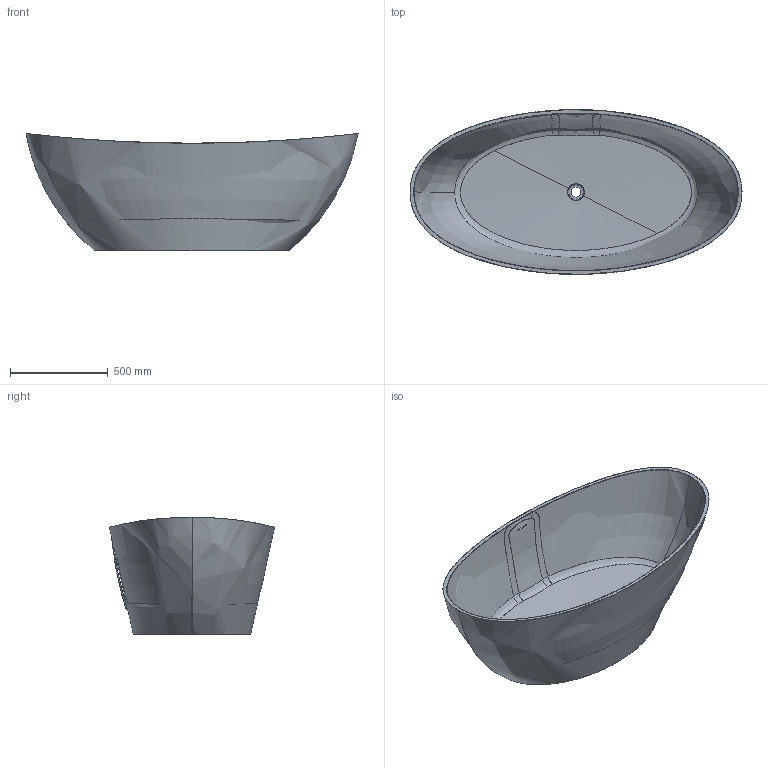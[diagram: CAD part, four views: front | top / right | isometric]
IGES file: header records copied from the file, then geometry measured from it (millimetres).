
Global section: file name: C:\Users\son\Desktop\igs\BW-03-L.igs; native system: Rhinoceros ( Jul  9 2019 ); preprocessor: Trout Lake IGES 012 Jul  9 2019; date: 200407.133706; units: millimetre
Bounding box: 1700 x 845.17 x 600 mm (x, y, z)
Surface area: 5323496.9 mm2 (no closed solid volume)
Topology: 0 solids, 0 shells, 75 faces, 6751 edges, 6749 vertices
Faces by surface type: bspline 75
